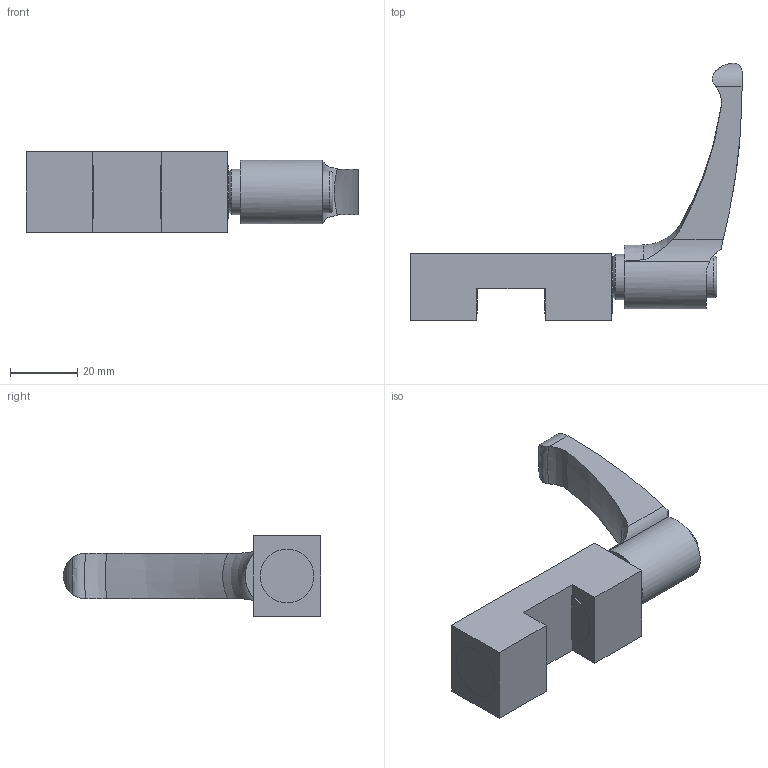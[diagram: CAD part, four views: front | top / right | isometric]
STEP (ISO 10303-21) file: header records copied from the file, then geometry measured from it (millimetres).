
FILE_DESCRIPTION(/* description */ ('STEP AP214'),/* implementation_level */ '2;1');
FILE_NAME(/* name */ 'HK2001A',/* time_stamp */ '2023-05-09T11:58:42+02:00',/* author */ ('License CC BY-ND 4.0'),/* organization */ ('CADENAS'),/* preprocessor_version */ 'ST-DEVELOPER v19.3',/* originating_system */ 'PARTsolutions',/* authorisation */ ' ');
FILE_SCHEMA (('AUTOMOTIVE_DESIGN {1 0 10303 214 3 1 1}'));
Length unit declared in the file: millimetre
Products named in the file (3): HK2001A; ELESA-Klemmhebel GN 604-63-M8-SG_NBK; ghkHK2001A103020
Assembly tree (2 placements, depth 2):
  HK2001A
    ELESA-Klemmhebel GN 604-63-M8-SG_NBK
    ghkHK2001A103020
Bounding box: 98.91 x 76.63 x 24 mm (x, y, z)
Volume: 38460.3 mm3; surface area: 11658.5 mm2
Topology: 2 solids, 2 shells, 64 faces, 159 edges, 104 vertices
Faces by surface type: plane 29, cylinder 17, cone 10, torus 8
Full cylindrical faces by diameter (mm): 4.134 x4, 6.647 x1, 12.5 x1, 13.5 x1, 16 x2
Entity records: 1906 total; most frequent: CARTESIAN_POINT 461, DIRECTION 276, ORIENTED_EDGE 258, EDGE_CURVE 129, AXIS2_PLACEMENT_3D 108, VERTEX_POINT 97, FACE_BOUND 92, EDGE_LOOP 88
